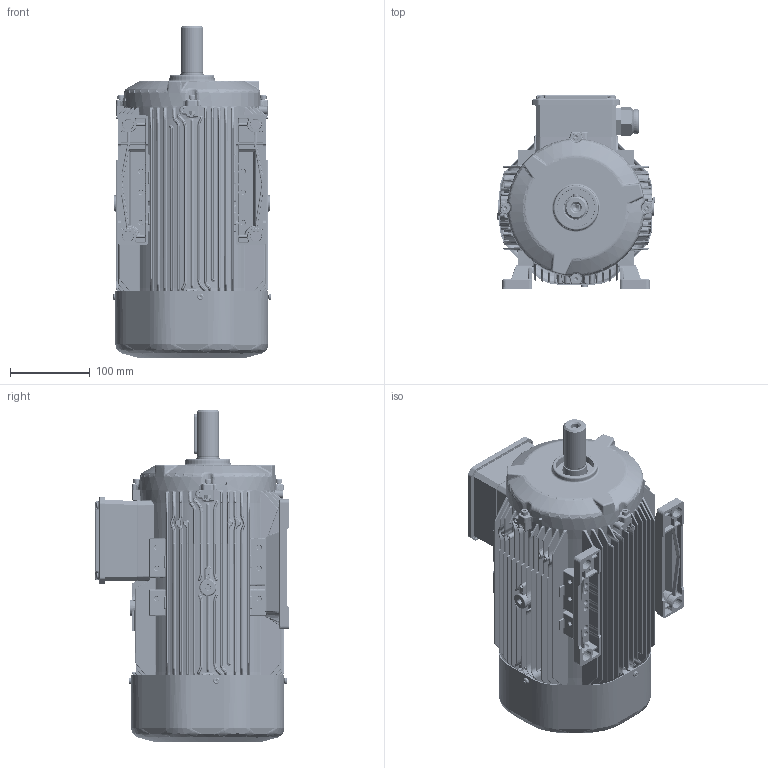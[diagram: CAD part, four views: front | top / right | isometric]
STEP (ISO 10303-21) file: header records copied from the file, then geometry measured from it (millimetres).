
FILE_DESCRIPTION(/* description */ (''),/* implementation_level */ '2;1');
FILE_NAME(/* name */ 'OUTLOOK VIEW QH100 KT B3 SPL.stp',/* time_stamp */ '2021-09-13T12:05:24+03:00',/* author */ (''),/* organization */ (''),/* preprocessor_version */ 'ST-DEVELOPER v16',/* originating_system */ 'SIEMENS PLM Software NX 11.0',/* authorisation */ '');
FILE_SCHEMA (('AUTOMOTIVE_DESIGN { 1 0 10303 214 3 1 1 1 }'));
Products named in the file (1): 26062CE45B9Cd54q
Bounding box: 197.75 x 242.65 x 415.31 mm (x, y, z)
Volume: 5132009.5 mm3; surface area: 1979174.3 mm2
Topology: 74 solids, 74 shells, 12292 faces, 29977 edges, 17417 vertices
Faces by surface type: cylinder 3906, bspline 3742, plane 2942, torus 682, cone 549, sphere 408, extrusion 63
Full cylindrical faces by diameter (mm): 3.242 x4, 3.3 x4, 4 x9, 4.722 x3, 5 x20, 5.5 x4, 8 x8, 8.5 x9, 10 x1, 10.5 x1, 18.7 x1, 23.38 x2, 23.9 x1, 24.4 x1, 24.8 x1, 25 x5, 25.2 x1, 27.4 x1, 28 x1, 28.6 x1, 29.4 x1, 30 x3, 31.6 x1, 32 x1, 34 x2, 34.35 x8, 40 x1, 43.95 x4, 44.6 x4, 46.21 x8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
Entity records: 488544 total; most frequent: CARTESIAN_POINT 173037, ORIENTED_EDGE 57388, DIRECTION 52616, EDGE_CURVE 28694, AXIS2_PLACEMENT_3D 21375, VERTEX_POINT 17213, EDGE_LOOP 13383, ADVANCED_FACE 12272
